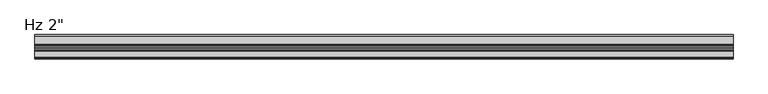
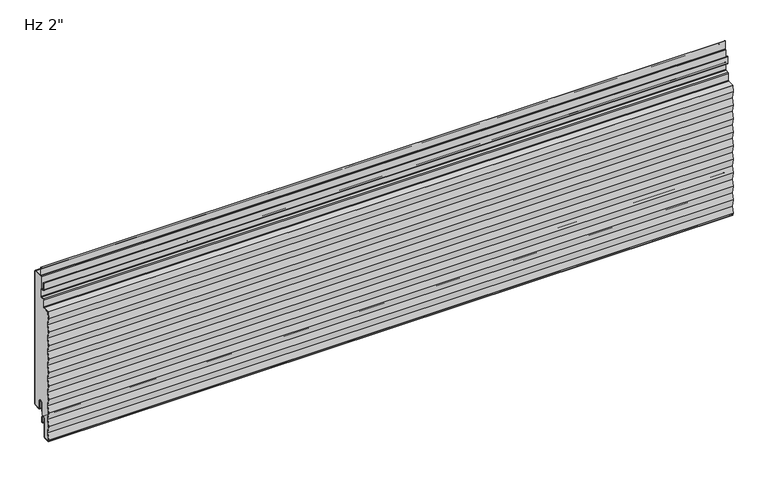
"""IFC4 building model written with IfcOpenShell, lengths in millimetres: plate geometry."""

from ifc_helpers import new_model, si_unit, point, frame, frame_2d, origin, place, context, project, spatial, polyline, circle_curve, ellipse_curve, trimmed, segment, composite_curve, outline, extrude, source, transform, mapped, element, save
from ifc_brep_helpers import plane_surface, cylinder_surface, revolved_surface, extruded_surface, advanced_brep


def plate_29fb56dc(model_context):
    return source(origin(), model_context, "Body", "SolidModel", [
        extrude(outline(composite_curve([segment(polyline([(-22.8125, 259.7620957), (-22.8125, 303.00625), (-2.38125, 303.00625)]), True, "CONTINUOUS"), segment(trimmed(circle_curve(frame_2d((-2.38125, 301.625)), 1.38125), [point((-2.38125, 303.00625))], [point((-1.0, 301.625))], False, "CARTESIAN"), True, "CONTINUOUS"), segment(polyline([(-1.0, 301.625), (-1.0, 3.175)]), True, "CONTINUOUS"), segment(trimmed(circle_curve(frame_2d((-2.38125, 3.175)), 1.38125), [point((-1.0, 3.175))], [point((-2.38125, 1.79375))], False, "CARTESIAN"), True, "CONTINUOUS"), segment(polyline([(-2.38125, 1.79375), (-15.08125, 1.79375)]), True, "CONTINUOUS"), segment(trimmed(circle_curve(frame_2d((-15.08125, 3.175)), 1.38125), [point((-15.08125, 1.79375))], [point((-16.4625, 3.175))], False, "CARTESIAN"), True, "CONTINUOUS"), segment(polyline([(-16.4625, 3.175), (-16.4625, 19.05)]), True, "CONTINUOUS"), segment(trimmed(circle_curve(frame_2d((-21.43125, 19.05)), 4.96875), [point((-16.4625, 19.05))], [point((-26.4, 19.05))], True, "CARTESIAN"), True, "CONTINUOUS"), segment(polyline([(-26.4, 19.05), (-26.4, -6.9375), (-30.95625, -6.9375)]), True, "CONTINUOUS"), segment(trimmed(circle_curve(frame_2d((-30.95625, -11.90625)), 4.96875), [point((-30.95625, -6.9375))], [point((-35.925, -11.90625))], True, "CARTESIAN"), True, "CONTINUOUS"), segment(polyline([(-35.925, -11.90625), (-35.925, -50.0895546)]), True, "CONTINUOUS"), segment(trimmed(circle_curve(frame_2d((-37.30625, -50.0895546)), 1.38125), [point((-35.925, -50.0895546))], [point((-37.233961, -51.4689117))], False, "CARTESIAN"), True, "CONTINUOUS"), segment(polyline([(-37.233961, -51.4689117), (-48.346824, -52.0517378)]), True, "CONTINUOUS"), segment(trimmed(circle_curve(frame_2d((-48.4195367, -50.6716754)), 1.3819766), [point((-48.346824, -52.0517378))], [point((-49.7322508, -51.1036948))], False, "CARTESIAN"), True, "CONTINUOUS"), segment(polyline([(-49.7322508, -51.1036948), (-50.0933847, -48.8511475), (-47.6552034, -33.6111825), (-50.0936034, -18.3711825), (-47.6552034, -3.1311825), (-50.0936034, 12.1088175), (-47.6552034, 27.3488175), (-50.0936034, 42.5888175), (-47.6552034, 57.8288175), (-50.0936034, 73.0688175), (-47.6552034, 88.3088175), (-50.0936034, 103.5488175), (-47.6552034, 118.7888175), (-50.0936034, 134.0288175), (-47.6552034, 149.2688175), (-50.0936034, 164.5088175), (-47.6552034, 179.7488175), (-50.0936034, 194.9888175), (-47.6552034, 210.2288175), (-50.0611926, 225.26625), (-48.01595, 238.0490161), (-34.7895807, 238.7421807)]), True, "CONTINUOUS"), segment(trimmed(circle_curve(frame_2d((-34.925, 241.3261347)), 2.5875), [point((-34.7895807, 238.7421807))], [point((-32.3375, 241.3261347))], True, "CARTESIAN"), True, "CONTINUOUS"), segment(polyline([(-32.3375, 241.3261347), (-32.3375, 255.4967085)]), True, "CONTINUOUS"), segment(trimmed(circle_curve(frame_2d((-30.95625, 255.4967085)), 1.38125), [point((-32.3375, 255.4967085))], [point((-31.028539, 256.8760655))], False, "CARTESIAN"), True, "CONTINUOUS"), segment(polyline([(-31.028539, 256.8760655), (-25.2645807, 257.1781418)]), True, "CONTINUOUS"), segment(trimmed(circle_curve(frame_2d((-25.4, 259.7620957)), 2.5875), [point((-25.2645807, 257.1781418))], [point((-22.8125, 259.7620957))], True, "CARTESIAN"), True, "CONTINUOUS")], self_intersect=False)), frame((-730.0, 0.0, 0.0), z_axis=(1.0, 0.0, 0.0), x_axis=(0.0, 1.0, 0.0)), (0.0, 0.0, 1.0), 1460.0),
        extrude(outline(composite_curve([segment(polyline([(-25.4, 0.79375), (-26.4, 0.79375), (-26.4, 19.05)]), True, "CONTINUOUS"), segment(trimmed(circle_curve(frame_2d((-21.43125, 19.05)), 4.96875), [point((-26.4, 19.05))], [point((-16.4625, 19.05))], False, "CARTESIAN"), True, "CONTINUOUS"), segment(polyline([(-16.4625, 19.05), (-16.4625, 3.175)]), True, "CONTINUOUS"), segment(trimmed(circle_curve(frame_2d((-15.08125, 3.175)), 1.38125), [point((-16.4625, 3.175))], [point((-15.08125, 1.79375))], True, "CARTESIAN"), True, "CONTINUOUS"), segment(polyline([(-15.08125, 1.79375), (-2.38125, 1.79375)]), True, "CONTINUOUS"), segment(trimmed(circle_curve(frame_2d((-2.38125, 3.175)), 1.38125), [point((-2.38125, 1.79375))], [point((-1.0, 3.175))], True, "CARTESIAN"), True, "CONTINUOUS"), segment(polyline([(-1.0, 3.175), (-1.0, 301.625)]), True, "CONTINUOUS"), segment(trimmed(circle_curve(frame_2d((-2.38125, 301.625)), 1.38125), [point((-1.0, 301.625))], [point((-2.38125, 303.00625))], True, "CARTESIAN"), True, "CONTINUOUS"), segment(polyline([(-2.38125, 303.00625), (-19.446875, 303.00625)]), True, "CONTINUOUS"), segment(trimmed(circle_curve(frame_2d((-19.446875, 305.59375)), 2.5875), [point((-19.446875, 303.00625))], [point((-22.034375, 305.59375))], False, "CARTESIAN"), True, "CONTINUOUS"), segment(polyline([(-22.034375, 305.59375), (-22.034375, 323.05625), (-21.034375, 323.05625), (-21.034375, 305.59375)]), True, "CONTINUOUS"), segment(trimmed(circle_curve(frame_2d((-19.446875, 305.59375)), 1.5875), [point((-21.034375, 305.59375))], [point((-19.446875, 304.00625))], True, "CARTESIAN"), True, "CONTINUOUS"), segment(polyline([(-19.446875, 304.00625), (-2.38125, 304.00625)]), True, "CONTINUOUS"), segment(trimmed(circle_curve(frame_2d((-2.38125, 301.625)), 2.38125), [point((-2.38125, 304.00625))], [point((0.0, 301.625))], False, "CARTESIAN"), True, "CONTINUOUS"), segment(polyline([(0.0, 301.625), (0.0, 3.175)]), True, "CONTINUOUS"), segment(trimmed(circle_curve(frame_2d((-2.38125, 3.175)), 2.38125), [point((0.0, 3.175))], [point((-2.38125, 0.79375))], False, "CARTESIAN"), True, "CONTINUOUS"), segment(polyline([(-2.38125, 0.79375), (-15.08125, 0.79375)]), True, "CONTINUOUS"), segment(trimmed(circle_curve(frame_2d((-15.08125, 3.175)), 2.38125), [point((-15.08125, 0.79375))], [point((-17.4625, 3.175))], False, "CARTESIAN"), True, "CONTINUOUS"), segment(polyline([(-17.4625, 3.175), (-17.4625, 19.05)]), True, "CONTINUOUS"), segment(trimmed(circle_curve(frame_2d((-21.43125, 19.05)), 3.96875), [point((-17.4625, 19.05))], [point((-25.4, 19.05))], True, "CARTESIAN"), True, "CONTINUOUS"), segment(polyline([(-25.4, 19.05), (-25.4, 0.79375)]), True, "CONTINUOUS")], self_intersect=False)), frame((-730.0, 0.0, 0.0), z_axis=(1.0, 0.0, 0.0), x_axis=(0.0, 1.0, 0.0)), (0.0, 0.0, 1.0), 1460.0),
        advanced_brep(
        [(-730.0, -25.4, -23.2314549), (-730.0, -26.9875, -23.2314549), (-730.0, -26.9875, -11.9205174), (-730.0, -34.925, -11.9205174), (-730.0, -34.925, -50.1038221), (-730.0, -37.181625, -52.4818086), (-730.0, -50.113818, -53.1595562), (-730.0, -50.8, -48.8709186), (-730.0, -48.3616, -33.6309186), (-730.0, -50.8, -18.3909186), (-730.0, -48.3616, -3.1509186), (-730.0, -50.8, 12.0890814), (-730.0, -48.3616, 27.3290814), (-730.0, -50.8, 42.5690814), (-730.0, -48.3616, 57.8090814), (-730.0, -50.8, 73.0490814), (-730.0, -48.3616, 88.2890814), (-730.0, -50.8, 103.5290814), (-730.0, -48.3616, 118.7690814), (-730.0, -50.8, 134.0090814), (-730.0, -48.3616, 149.2490814), (-730.0, -50.8, 164.4890814), (-730.0, -48.3616, 179.7290814), (-730.0, -50.8, 194.9690814), (-730.0, -48.3616, 210.2090814), (-730.0, -50.7837946, 225.3477976), (-730.0, -48.6289309, 239.0182635), (-730.0, -34.8419167, 239.7408103), (-730.0, -33.3375, 241.3261347), (-730.0, -33.3375, 255.4824411), (-730.0, -31.080875, 257.8604276), (-730.0, -25.3169167, 258.1625039), (-730.0, -23.8125, 259.7478283), (-730.0, -23.8125, 274.6232326), (-730.0, -25.4, 276.2107326), (-730.0, -29.5671875, 276.2107326), (-730.0, -31.9484375, 278.5919826), (-730.0, -31.9484375, 293.0836032), (-730.0, -30.1546875, 293.0836032), (-730.0, -30.1546875, 283.3544826), (-730.0, -30.9484375, 283.3544826), (-730.0, -30.9484375, 278.5919826), (-730.0, -29.5671875, 277.2107326), (-730.0, -25.4, 277.2107326), (-730.0, -22.8125, 274.6232326), (-730.0, -22.8125, 259.7478283), (-730.0, -25.2645807, 257.1638744), (-730.0, -31.028539, 256.8617981), (-730.0, -32.3375, 255.4824411), (-730.0, -32.3375, 241.3261347), (-730.0, -34.7895807, 238.7421807), (-730.0, -47.7692225, 238.0619465), (-730.0, -49.7872809, 225.4490814), (-730.0, -47.3488809, 210.2090814), (-730.0, -49.7872809, 194.9690814), (-730.0, -47.3488809, 179.7290814), (-730.0, -49.7872809, 164.4890814), (-730.0, -47.3488809, 149.2490814), (-730.0, -49.7872809, 134.0090814), (-730.0, -47.3488809, 118.7690814), (-730.0, -49.7872809, 103.5290814), (-730.0, -47.3488809, 88.2890814), (-730.0, -49.7872809, 73.0490814), (-730.0, -47.3488809, 57.8090814), (-730.0, -49.7872809, 42.5690814), (-730.0, -47.3488809, 27.3290814), (-730.0, -49.7872809, 12.0890814), (-730.0, -47.3488809, -3.1509186), (-730.0, -49.7872809, -18.3909186), (-730.0, -47.3488809, -33.6309186), (-730.0, -49.7872809, -48.8709186), (-730.0, -49.2684074, -52.1138777), (-730.0, -37.233961, -51.4831791), (-730.0, -35.925, -50.1038221), (-730.0, -35.925, -11.9205174), (-730.0, -25.9875, -11.9205174), (-730.0, -26.19375, -13.5080174), (-730.0, -25.4, -13.5080174), (730.0, -25.4, -23.2314549), (730.0, -25.4, -13.5080174), (730.0, -26.19375, -13.5080174), (730.0, -25.9875, -11.9205174), (730.0, -35.925, -11.9205174), (730.0, -35.925, -50.1038221), (730.0, -37.233961, -51.4831791), (730.0, -49.2684074, -52.1138777), (730.0, -49.7872809, -48.8709186), (730.0, -47.3488809, -33.6309186), (730.0, -49.7872809, -18.3909186), (730.0, -47.3488809, -3.1509186), (730.0, -49.7872809, 12.0890814), (730.0, -47.3488809, 27.3290814), (730.0, -49.7872809, 42.5690814), (730.0, -47.3488809, 57.8090814), (730.0, -49.7872809, 73.0490814), (730.0, -47.3488809, 88.2890814), (730.0, -49.7872809, 103.5290814), (730.0, -47.3488809, 118.7690814), (730.0, -49.7872809, 134.0090814), (730.0, -47.3488809, 149.2490814), (730.0, -49.7872809, 164.4890814), (730.0, -47.3488809, 179.7290814), (730.0, -49.7872809, 194.9690814), (730.0, -47.3488809, 210.2090814), (730.0, -49.7710755, 225.3477976), (730.0, -47.7692225, 238.0619465), (730.0, -34.7895807, 238.7421807), (730.0, -32.3375, 241.3261347), (730.0, -32.3375, 255.4824411), (730.0, -31.028539, 256.8617981), (730.0, -25.2645807, 257.1638744), (730.0, -22.8125, 259.7478283), (730.0, -22.8125, 274.6232326), (730.0, -25.4, 277.2107326), (730.0, -29.5671875, 277.2107326), (730.0, -30.9484375, 278.5919826), (730.0, -30.9484375, 283.3544826), (730.0, -30.1546875, 283.3544826), (730.0, -30.1546875, 293.0836032), (730.0, -31.9484375, 293.0836032), (730.0, -31.9484375, 278.5919826), (730.0, -29.5671875, 276.2107326), (730.0, -25.4, 276.2107326), (730.0, -23.8125, 274.6232326), (730.0, -23.8125, 259.7478283), (730.0, -25.3169167, 258.1625039), (730.0, -31.080875, 257.8604276), (730.0, -33.3375, 255.4824411), (730.0, -33.3375, 241.3261347), (730.0, -34.8419167, 239.7408103), (730.0, -48.6289309, 239.0182635), (730.0, -50.8, 225.4490814), (730.0, -48.3616, 210.2090814), (730.0, -50.8, 194.9690814), (730.0, -48.3616, 179.7290814), (730.0, -50.8, 164.4890814), (730.0, -48.3616, 149.2490814), (730.0, -50.8, 134.0090814), (730.0, -48.3616, 118.7690814), (730.0, -50.8, 103.5290814), (730.0, -48.3616, 88.2890814), (730.0, -50.8, 73.0490814), (730.0, -48.3616, 57.8090814), (730.0, -50.8, 42.5690814), (730.0, -48.3616, 27.3290814), (730.0, -50.8, 12.0890814), (730.0, -48.3616, -3.1509186), (730.0, -50.8, -18.3909186), (730.0, -48.3616, -33.6309186), (730.0, -50.8, -48.8709186), (730.0, -50.113818, -53.1595562), (730.0, -37.181625, -52.4818086), (730.0, -34.925, -50.1038221), (730.0, -34.925, -11.9205174), (730.0, -26.9875, -11.9205174), (730.0, -26.9875, -23.2314549)],
        [
            (0, 1, circle_curve(frame((-730.0, -26.19375, -23.2314549), z_axis=(-1.0, 0.0, 0.0), x_axis=(0.0, 0.0, 1.0)), 0.79375)),
            (1, 2),
            (2, 3, circle_curve(frame((-730.0, -30.95625, -11.9205174), z_axis=(1.0, 0.0, 0.0), x_axis=(0.0, 0.0, 1.0)), 3.96875)),
            (3, 4),
            (4, 5, circle_curve(frame((-730.0, -37.30625, -50.1038221), z_axis=(-1.0, 0.0, 0.0), x_axis=(0.0, 0.0, 1.0)), 2.38125)),
            (5, 6),
            (6, 7),
            (7, 8),
            (8, 9),
            (9, 10),
            (10, 11),
            (11, 12),
            (12, 13),
            (13, 14),
            (14, 15),
            (15, 16),
            (16, 17),
            (17, 18),
            (18, 19),
            (19, 20),
            (20, 21),
            (21, 22),
            (22, 23),
            (23, 24),
            (24, 25),
            (25, 26),
            (26, 27),
            (27, 28, circle_curve(frame((-730.0, -34.925, 241.3261347), z_axis=(1.0, 0.0, 0.0), x_axis=(0.0, 0.0, 1.0)), 1.5875)),
            (28, 29),
            (29, 30, circle_curve(frame((-730.0, -30.95625, 255.4824411), z_axis=(-1.0, 0.0, 0.0), x_axis=(0.0, 0.0, 1.0)), 2.38125)),
            (30, 31),
            (31, 32, circle_curve(frame((-730.0, -25.4, 259.7478283), z_axis=(1.0, 0.0, 0.0), x_axis=(0.0, 0.0, 1.0)), 1.5875)),
            (32, 33),
            (33, 34, circle_curve(frame((-730.0, -25.4, 274.6232326), z_axis=(1.0, 0.0, 0.0), x_axis=(0.0, 0.0, 1.0)), 1.5875)),
            (34, 35),
            (35, 36, circle_curve(frame((-730.0, -29.5671875, 278.5919826), z_axis=(-1.0, 0.0, 0.0), x_axis=(0.0, 0.0, 1.0)), 2.38125)),
            (36, 37),
            (37, 38, ellipse_curve(frame((-730.0, -31.0515625, 293.0836032), z_axis=(-1.0, 0.0, 0.0), x_axis=(0.0, 1.0, 0.0)), 0.896875, 0.7852275)),
            (38, 39),
            (39, 40),
            (40, 41),
            (41, 42, circle_curve(frame((-730.0, -29.5671875, 278.5919826), z_axis=(1.0, 0.0, 0.0), x_axis=(0.0, 0.0, 1.0)), 1.38125)),
            (42, 43),
            (43, 44, circle_curve(frame((-730.0, -25.4, 274.6232326), z_axis=(-1.0, 0.0, 0.0), x_axis=(0.0, 0.0, 1.0)), 2.5875)),
            (44, 45),
            (45, 46, circle_curve(frame((-730.0, -25.4, 259.7478283), z_axis=(-1.0, 0.0, 0.0), x_axis=(0.0, 0.0, 1.0)), 2.5875)),
            (46, 47),
            (47, 48, circle_curve(frame((-730.0, -30.95625, 255.4824411), z_axis=(1.0, 0.0, 0.0), x_axis=(0.0, 0.0, 1.0)), 1.38125)),
            (48, 49),
            (49, 50, circle_curve(frame((-730.0, -34.925, 241.3261347), z_axis=(-1.0, 0.0, 0.0), x_axis=(0.0, 0.0, 1.0)), 2.5875)),
            (50, 51),
            (51, 52),
            (52, 53),
            (53, 54),
            (54, 55),
            (55, 56),
            (56, 57),
            (57, 58),
            (58, 59),
            (59, 60),
            (60, 61),
            (61, 62),
            (62, 63),
            (63, 64),
            (64, 65),
            (65, 66),
            (66, 67),
            (67, 68),
            (68, 69),
            (69, 70),
            (70, 71),
            (71, 72),
            (72, 73, circle_curve(frame((-730.0, -37.30625, -50.1038221), z_axis=(1.0, 0.0, 0.0), x_axis=(0.0, 0.0, 1.0)), 1.38125)),
            (73, 74),
            (74, 75, circle_curve(frame((-730.0, -30.95625, -11.9205174), z_axis=(-1.0, 0.0, 0.0), x_axis=(0.0, 0.0, 1.0)), 4.96875)),
            (75, 76),
            (76, 77),
            (77, 0),
            (78, 79),
            (79, 80),
            (80, 81),
            (81, 82, circle_curve(frame((730.0, -30.95625, -11.9205174), z_axis=(1.0, 0.0, 0.0), x_axis=(0.0, 0.0, 1.0)), 4.96875)),
            (82, 83),
            (83, 84, circle_curve(frame((730.0, -37.30625, -50.1038221), z_axis=(-1.0, 0.0, 0.0), x_axis=(0.0, 0.0, 1.0)), 1.38125)),
            (84, 85),
            (85, 86),
            (86, 87),
            (87, 88),
            (88, 89),
            (89, 90),
            (90, 91),
            (91, 92),
            (92, 93),
            (93, 94),
            (94, 95),
            (95, 96),
            (96, 97),
            (97, 98),
            (98, 99),
            (99, 100),
            (100, 101),
            (101, 102),
            (102, 103),
            (103, 104),
            (104, 105),
            (105, 106),
            (106, 107, circle_curve(frame((730.0, -34.925, 241.3261347), z_axis=(1.0, 0.0, 0.0), x_axis=(0.0, 0.0, 1.0)), 2.5875)),
            (107, 108),
            (108, 109, circle_curve(frame((730.0, -30.95625, 255.4824411), z_axis=(-1.0, 0.0, 0.0), x_axis=(0.0, 0.0, 1.0)), 1.38125)),
            (109, 110),
            (110, 111, circle_curve(frame((730.0, -25.4, 259.7478283), z_axis=(1.0, 0.0, 0.0), x_axis=(0.0, 0.0, 1.0)), 2.5875)),
            (111, 112),
            (112, 113, circle_curve(frame((730.0, -25.4, 274.6232326), z_axis=(1.0, 0.0, 0.0), x_axis=(0.0, 0.0, 1.0)), 2.5875)),
            (113, 114),
            (114, 115, circle_curve(frame((730.0, -29.5671875, 278.5919826), z_axis=(-1.0, 0.0, 0.0), x_axis=(0.0, 0.0, 1.0)), 1.38125)),
            (115, 116),
            (116, 117),
            (117, 118),
            (118, 119, ellipse_curve(frame((730.0, -31.0515625, 293.0836032), z_axis=(1.0, 0.0, 0.0), x_axis=(0.0, 1.0, 0.0)), 0.896875, 0.7852275)),
            (119, 120),
            (120, 121, circle_curve(frame((730.0, -29.5671875, 278.5919826), z_axis=(1.0, 0.0, 0.0), x_axis=(0.0, 0.0, 1.0)), 2.38125)),
            (121, 122),
            (122, 123, circle_curve(frame((730.0, -25.4, 274.6232326), z_axis=(-1.0, 0.0, 0.0), x_axis=(0.0, 0.0, 1.0)), 1.5875)),
            (123, 124),
            (124, 125, circle_curve(frame((730.0, -25.4, 259.7478283), z_axis=(-1.0, 0.0, 0.0), x_axis=(0.0, 0.0, 1.0)), 1.5875)),
            (125, 126),
            (126, 127, circle_curve(frame((730.0, -30.95625, 255.4824411), z_axis=(1.0, 0.0, 0.0), x_axis=(0.0, 0.0, 1.0)), 2.38125)),
            (127, 128),
            (128, 129, circle_curve(frame((730.0, -34.925, 241.3261347), z_axis=(-1.0, 0.0, 0.0), x_axis=(0.0, 0.0, 1.0)), 1.5875)),
            (129, 130),
            (130, 131),
            (131, 132),
            (132, 133),
            (133, 134),
            (134, 135),
            (135, 136),
            (136, 137),
            (137, 138),
            (138, 139),
            (139, 140),
            (140, 141),
            (141, 142),
            (142, 143),
            (143, 144),
            (144, 145),
            (145, 146),
            (146, 147),
            (147, 148),
            (148, 149),
            (149, 150),
            (150, 151),
            (151, 152, circle_curve(frame((730.0, -37.30625, -50.1038221), z_axis=(1.0, 0.0, 0.0), x_axis=(0.0, 0.0, 1.0)), 2.38125)),
            (152, 153),
            (153, 154, circle_curve(frame((730.0, -30.95625, -11.9205174), z_axis=(-1.0, 0.0, 0.0), x_axis=(0.0, 0.0, 1.0)), 3.96875)),
            (154, 155),
            (155, 78, circle_curve(frame((730.0, -26.19375, -23.2314549), z_axis=(1.0, 0.0, 0.0), x_axis=(0.0, 0.0, 1.0)), 0.79375)),
            (56, 100),
            (99, 57),
            (98, 58),
            (97, 59),
            (71, 85),
            (84, 72),
            (83, 73),
            (82, 74),
            (81, 75),
            (76, 80),
            (79, 77),
            (39, 117),
            (116, 40),
            (38, 118),
            (37, 119),
            (26, 130),
            (129, 27),
            (50, 106),
            (105, 51),
            (24, 132),
            (131, 25),
            (52, 104),
            (103, 53),
            (102, 54),
            (101, 55),
            (21, 135),
            (134, 22),
            (133, 23),
            (20, 136),
            (18, 138),
            (137, 19),
            (16, 140),
            (139, 17),
            (14, 142),
            (141, 15),
            (12, 144),
            (143, 13),
            (10, 146),
            (145, 11),
            (8, 148),
            (147, 9),
            (6, 150),
            (149, 7),
            (69, 87),
            (86, 70),
            (67, 89),
            (88, 68),
            (65, 91),
            (90, 66),
            (63, 93),
            (92, 64),
            (61, 95),
            (94, 62),
            (96, 60),
            (49, 107),
            (47, 109),
            (108, 48),
            (45, 111),
            (110, 46),
            (41, 115),
            (114, 42),
            (43, 113),
            (112, 44),
            (36, 120),
            (34, 122),
            (121, 35),
            (32, 124),
            (123, 33),
            (30, 126),
            (125, 31),
            (28, 128),
            (127, 29),
            (5, 151),
            (3, 153),
            (152, 4),
            (1, 155),
            (154, 2),
            (78, 0),
        ],
        [
            plane_surface(frame((-730.0, -50.8, 152.4), z_axis=(-1.0, 0.0, 0.0), x_axis=(0.0, -1.0, 0.0))),
            plane_surface(frame((730.0, -50.8, 152.4), z_axis=(1.0, 0.0, 0.0), x_axis=(0.0, -1.0, 0.0))),
            plane_surface(frame((-730.0, -47.3488809, 149.2490814), z_axis=(0.0, 0.9874406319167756, 0.15799050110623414), x_axis=(1.0, 0.0, 0.0))),
            plane_surface(frame((-730.0, -49.7872809, 134.0090814), z_axis=(0.0, 0.987440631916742, -0.15799050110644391), x_axis=(1.0, 0.0, 0.0))),
            plane_surface(frame((-730.0, -47.3488809, 118.7690814), z_axis=(0.0, 0.987440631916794, 0.1579905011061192), x_axis=(1.0, 0.0, 0.0))),
            plane_surface(frame((-730.0, -37.233961, -51.4831791), z_axis=(0.0, -0.052335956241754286, 0.9986295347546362), x_axis=(1.0, 0.0, 0.0))),
            revolved_surface(polyline([(730.0, -37.30625, -48.7225721), (-730.0, -37.30625, -48.7225721)]), (-730.0, -37.30625, -50.1038221), (1.0, 0.0, 0.0)),
            plane_surface(frame((-730.0, -35.925, -11.9205174), z_axis=(0.0, -1.0, 0.0), x_axis=(1.0, 0.0, 0.0))),
            cylinder_surface(frame((-730.0, -30.95625, -11.9205174), z_axis=(-1.0, 0.0, 0.0), x_axis=(0.0, 0.0, 1.0)), 4.96875),
            plane_surface(frame((-730.0, -25.4, -13.5080174), z_axis=(0.0, 0.0, 1.0), x_axis=(1.0, 0.0, 0.0))),
            plane_surface(frame((-730.0, -26.19375, -13.5080174), z_axis=(0.0, 0.9916655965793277, -0.12883844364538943), x_axis=(1.0, 0.0, 0.0))),
            plane_surface(frame((-730.0, -30.9484375, 283.3544826), z_axis=(0.0, 0.0, -1.0), x_axis=(1.0, 0.0, 0.0))),
            plane_surface(frame((-730.0, -30.1546875, 283.3544826), z_axis=(0.0, 1.0, 0.0), x_axis=(1.0, 0.0, 0.0))),
            extruded_surface(trimmed(ellipse_curve(frame((-730.0, -31.0515625, 293.0836032), z_axis=(1.0, 0.0, 0.0), x_axis=(0.0, 1.0, 0.0)), 0.896875, 0.7852275), [point((-730.0, -30.1546875, 293.0836032))], [point((-730.0, -31.9484375, 293.0836032))], True, "CARTESIAN"), (1460.0, 0.0, 0.0), 1460.0),
            plane_surface(frame((-730.0, -34.8419167, 239.7408103), z_axis=(0.0, -0.052335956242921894, 0.998629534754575), x_axis=(1.0, 0.0, 0.0))),
            plane_surface(frame((-730.0, -47.7692225, 238.0619465), z_axis=(0.0, 0.05233595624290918, -0.9986295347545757), x_axis=(1.0, 0.0, 0.0))),
            plane_surface(frame((-730.0, -50.7837946, 225.3477976), z_axis=(0.0, -0.9874406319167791, -0.15799050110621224), x_axis=(1.0, 0.0, 0.0))),
            plane_surface(frame((-730.0, -47.3488809, 210.2090814), z_axis=(0.0, 0.9874406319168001, 0.15799050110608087), x_axis=(1.0, 0.0, 0.0))),
            plane_surface(frame((-730.0, -49.7872809, 194.9690814), z_axis=(0.0, 0.9874406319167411, -0.15799050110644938), x_axis=(1.0, 0.0, 0.0))),
            plane_surface(frame((-730.0, -47.3488809, 179.7290814), z_axis=(0.0, 0.987440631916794, 0.1579905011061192), x_axis=(1.0, 0.0, 0.0))),
            plane_surface(frame((-730.0, -49.7872809, 164.4890814), z_axis=(0.0, 0.987440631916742, -0.15799050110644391), x_axis=(1.0, 0.0, 0.0))),
            plane_surface(frame((-730.0, -48.3616, 179.7290814), z_axis=(0.0, -0.9874406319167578, 0.15799050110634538), x_axis=(1.0, 0.0, 0.0))),
            plane_surface(frame((-730.0, -50.8, 194.9690814), z_axis=(0.0, -0.9874406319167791, -0.15799050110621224), x_axis=(1.0, 0.0, 0.0))),
            plane_surface(frame((-730.0, -48.3616, 210.2090814), z_axis=(0.0, -0.9874406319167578, 0.15799050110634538), x_axis=(1.0, 0.0, 0.0))),
            plane_surface(frame((-730.0, -49.7872809, 225.4490814), z_axis=(0.0, 0.9874406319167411, -0.15799050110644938), x_axis=(1.0, 0.0, 0.0))),
            plane_surface(frame((-730.0, -48.6289309, 239.0182635), z_axis=(0.0, -0.9874406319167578, 0.15799050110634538), x_axis=(1.0, 0.0, 0.0))),
            plane_surface(frame((-730.0, -50.8, 164.4890814), z_axis=(0.0, -0.9874406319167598, -0.15799050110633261), x_axis=(1.0, 0.0, 0.0))),
            plane_surface(frame((-730.0, -50.8, 134.0090814), z_axis=(0.0, -0.9874406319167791, -0.15799050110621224), x_axis=(1.0, 0.0, 0.0))),
            plane_surface(frame((-730.0, -48.3616, 149.2490814), z_axis=(0.0, -0.9874406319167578, 0.15799050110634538), x_axis=(1.0, 0.0, 0.0))),
            plane_surface(frame((-730.0, -50.8, 103.5290814), z_axis=(0.0, -0.9874406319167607, -0.15799050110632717), x_axis=(1.0, 0.0, 0.0))),
            plane_surface(frame((-730.0, -50.8, 73.0490814), z_axis=(0.0, -0.9874406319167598, -0.15799050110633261), x_axis=(1.0, 0.0, 0.0))),
            plane_surface(frame((-730.0, -48.3616, 88.2890814), z_axis=(0.0, -0.9874406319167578, 0.15799050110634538), x_axis=(1.0, 0.0, 0.0))),
            plane_surface(frame((-730.0, -48.3616, 118.7690814), z_axis=(0.0, -0.9874406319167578, 0.15799050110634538), x_axis=(1.0, 0.0, 0.0))),
            plane_surface(frame((-730.0, -50.8, 42.5690814), z_axis=(0.0, -0.9874406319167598, -0.15799050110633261), x_axis=(1.0, 0.0, 0.0))),
            plane_surface(frame((-730.0, -50.8, 12.0890814), z_axis=(0.0, -0.9874406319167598, -0.15799050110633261), x_axis=(1.0, 0.0, 0.0))),
            plane_surface(frame((-730.0, -48.3616, 27.3290814), z_axis=(0.0, -0.9874406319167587, 0.15799050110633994), x_axis=(1.0, 0.0, 0.0))),
            plane_surface(frame((-730.0, -48.3616, 57.8090814), z_axis=(0.0, -0.9874406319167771, 0.157990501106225), x_axis=(1.0, 0.0, 0.0))),
            plane_surface(frame((-730.0, -50.8, -18.3909186), z_axis=(0.0, -0.9874406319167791, -0.15799050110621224), x_axis=(1.0, 0.0, 0.0))),
            plane_surface(frame((-730.0, -50.8, -48.8709186), z_axis=(0.0, -0.9874406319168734, -0.15799050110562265), x_axis=(1.0, 0.0, 0.0))),
            plane_surface(frame((-730.0, -48.3616, -33.6309186), z_axis=(0.0, -0.9874406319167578, 0.15799050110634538), x_axis=(1.0, 0.0, 0.0))),
            plane_surface(frame((-730.0, -48.3616, -3.1509186), z_axis=(0.0, -0.9874406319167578, 0.15799050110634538), x_axis=(1.0, 0.0, 0.0))),
            plane_surface(frame((-730.0, -49.7872809, -48.8709186), z_axis=(0.0, 0.9874406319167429, -0.15799050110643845), x_axis=(1.0, 0.0, 0.0))),
            plane_surface(frame((-730.0, -49.7872809, -18.3909186), z_axis=(0.0, 0.987440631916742, -0.15799050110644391), x_axis=(1.0, 0.0, 0.0))),
            plane_surface(frame((-730.0, -47.3488809, -33.6309186), z_axis=(0.0, 0.987440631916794, 0.1579905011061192), x_axis=(1.0, 0.0, 0.0))),
            plane_surface(frame((-730.0, -49.2684074, -52.1138777), z_axis=(0.0, 0.987440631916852, 0.1579905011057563), x_axis=(1.0, 0.0, 0.0))),
            plane_surface(frame((-730.0, -49.7872809, 12.0890814), z_axis=(0.0, 0.987440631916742, -0.15799050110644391), x_axis=(1.0, 0.0, 0.0))),
            plane_surface(frame((-730.0, -49.7872809, 42.5690814), z_axis=(0.0, 0.9874406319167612, -0.1579905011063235), x_axis=(1.0, 0.0, 0.0))),
            plane_surface(frame((-730.0, -47.3488809, 27.3290814), z_axis=(0.0, 0.9874406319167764, 0.15799050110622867), x_axis=(1.0, 0.0, 0.0))),
            plane_surface(frame((-730.0, -47.3488809, -3.1509186), z_axis=(0.0, 0.9874406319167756, 0.15799050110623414), x_axis=(1.0, 0.0, 0.0))),
            plane_surface(frame((-730.0, -49.7872809, 73.0490814), z_axis=(0.0, 0.9874406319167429, -0.15799050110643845), x_axis=(1.0, 0.0, 0.0))),
            plane_surface(frame((-730.0, -49.7872809, 103.5290814), z_axis=(0.0, 0.987440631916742, -0.15799050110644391), x_axis=(1.0, 0.0, 0.0))),
            plane_surface(frame((-730.0, -47.3488809, 88.2890814), z_axis=(0.0, 0.9874406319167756, 0.15799050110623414), x_axis=(1.0, 0.0, 0.0))),
            plane_surface(frame((-730.0, -47.3488809, 57.8090814), z_axis=(0.0, 0.9874406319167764, 0.15799050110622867), x_axis=(1.0, 0.0, 0.0))),
            cylinder_surface(frame((-730.0, -34.925, 241.3261347), z_axis=(-1.0, 0.0, 0.0), x_axis=(0.0, 0.0, 1.0)), 2.5875),
            revolved_surface(polyline([(730.0, -30.95625, 256.8636911), (-730.0, -30.95625, 256.8636911)]), (-730.0, -30.95625, 255.4824411), (1.0, 0.0, 0.0)),
            cylinder_surface(frame((-730.0, -25.4, 259.7478283), z_axis=(-1.0, 0.0, 0.0), x_axis=(0.0, 0.0, 1.0)), 2.5875),
            plane_surface(frame((-730.0, -31.028539, 256.8617981), z_axis=(0.0, 0.0523359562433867, -0.9986295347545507), x_axis=(1.0, 0.0, 0.0))),
            plane_surface(frame((-730.0, -32.3375, 241.3261347), z_axis=(0.0, 1.0, 0.0), x_axis=(1.0, 0.0, 0.0))),
            revolved_surface(polyline([(730.0, -29.5671875, 279.9732326), (-730.0, -29.5671875, 279.9732326)]), (-730.0, -29.5671875, 278.5919826), (1.0, 0.0, 0.0)),
            cylinder_surface(frame((-730.0, -25.4, 274.6232326), z_axis=(-1.0, 0.0, 0.0), x_axis=(0.0, 0.0, 1.0)), 2.5875),
            plane_surface(frame((-730.0, -25.4, 277.2107326), z_axis=(0.0, 0.0, 1.0), x_axis=(1.0, 0.0, 0.0))),
            plane_surface(frame((-730.0, -30.9484375, 278.5919826), z_axis=(0.0, 1.0, 0.0), x_axis=(1.0, 0.0, 0.0))),
            plane_surface(frame((-730.0, -31.9484375, 293.0836032), z_axis=(0.0, -1.0, 0.0), x_axis=(1.0, 0.0, 0.0))),
            plane_surface(frame((-730.0, -29.5671875, 276.2107326), z_axis=(0.0, 0.0, -1.0), x_axis=(1.0, 0.0, 0.0))),
            cylinder_surface(frame((-730.0, -29.5671875, 278.5919826), z_axis=(-1.0, 0.0, 0.0), x_axis=(0.0, 0.0, 1.0)), 2.38125),
            plane_surface(frame((-730.0, -22.8125, 259.7478283), z_axis=(0.0, 1.0, 0.0), x_axis=(1.0, 0.0, 0.0))),
            plane_surface(frame((-730.0, -23.8125, 274.6232326), z_axis=(0.0, -1.0, 0.0), x_axis=(1.0, 0.0, 0.0))),
            plane_surface(frame((-730.0, -25.3169167, 258.1625039), z_axis=(0.0, -0.052335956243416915, 0.9986295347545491), x_axis=(1.0, 0.0, 0.0))),
            revolved_surface(polyline([(730.0, -25.4, 261.33532829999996), (-730.0, -25.4, 261.33532829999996)]), (-730.0, -25.4, 259.7478283), (1.0, 0.0, 0.0)),
            revolved_surface(polyline([(730.0, -25.4, 276.2107326), (-730.0, -25.4, 276.2107326)]), (-730.0, -25.4, 274.6232326), (1.0, 0.0, 0.0)),
            plane_surface(frame((-730.0, -33.3375, 255.4824411), z_axis=(0.0, -1.0, 0.0), x_axis=(1.0, 0.0, 0.0))),
            revolved_surface(polyline([(730.0, -34.925, 242.91363470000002), (-730.0, -34.925, 242.91363470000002)]), (-730.0, -34.925, 241.3261347), (1.0, 0.0, 0.0)),
            cylinder_surface(frame((-730.0, -30.95625, 255.4824411), z_axis=(-1.0, 0.0, 0.0), x_axis=(0.0, 0.0, 1.0)), 2.38125),
            plane_surface(frame((-730.0, -50.113818, -53.1595562), z_axis=(0.0, 0.052335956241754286, -0.9986295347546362), x_axis=(1.0, 0.0, 0.0))),
            plane_surface(frame((-730.0, -34.925, -50.1038221), z_axis=(0.0, 1.0, 0.0), x_axis=(1.0, 0.0, 0.0))),
            plane_surface(frame((-730.0, -26.9875, -11.9205174), z_axis=(0.0, -1.0, 0.0), x_axis=(1.0, 0.0, 0.0))),
            revolved_surface(polyline([(730.0, -30.95625, -7.9517674), (-730.0, -30.95625, -7.9517674)]), (-730.0, -30.95625, -11.9205174), (1.0, 0.0, 0.0)),
            cylinder_surface(frame((-730.0, -37.30625, -50.1038221), z_axis=(-1.0, 0.0, 0.0), x_axis=(0.0, 0.0, 1.0)), 2.38125),
            plane_surface(frame((-730.0, -25.4, -23.2314549), z_axis=(0.0, 1.0, 0.0), x_axis=(1.0, 0.0, 0.0))),
            cylinder_surface(frame((-730.0, -26.19375, -23.2314549), z_axis=(-1.0, 0.0, 0.0), x_axis=(0.0, 0.0, 1.0)), 0.79375),
        ],
        [
            (0, [[1, 2, 3, 4, 5, 6, 7, 8, 9, 10, 11, 12, 13, 14, 15, 16, 17, 18, 19, 20, 21, 22, 23, 24, 25, 26, 27, 28, 29, 30, 31, 32, 33, 34, 35, 36, 37, 38, 39, 40, 41, 42, 43, 44, 45, 46, 47, 48, 49, 50, 51, 52, 53, 54, 55, 56, 57, 58, 59, 60, 61, 62, 63, 64, 65, 66, 67, 68, 69, 70, 71, 72, 73, 74, 75, 76, 77, 78]]),
            (1, [[79, 80, 81, 82, 83, 84, 85, 86, 87, 88, 89, 90, 91, 92, 93, 94, 95, 96, 97, 98, 99, 100, 101, 102, 103, 104, 105, 106, 107, 108, 109, 110, 111, 112, 113, 114, 115, 116, 117, 118, 119, 120, 121, 122, 123, 124, 125, 126, 127, 128, 129, 130, 131, 132, 133, 134, 135, 136, 137, 138, 139, 140, 141, 142, 143, 144, 145, 146, 147, 148, 149, 150, 151, 152, 153, 154, 155, 156]]),
            (2, [[157, -100, 158, -57]]),
            (3, [[-158, -99, 159, -58]]),
            (4, [[-159, -98, 160, -59]]),
            (5, [[161, -85, 162, -72]]),
            (6, [[-162, -84, 163, -73]]),
            (7, [[-163, -83, 164, -74]]),
            (8, [[-164, -82, 165, -75]]),
            (9, [[166, -80, 167, -77]]),
            (10, [[-165, -81, -166, -76]]),
            (11, [[168, -117, 169, -40]]),
            (12, [[170, -118, -168, -39]]),
            (13, [[171, -119, -170, -38]]),
            (14, [[172, -130, 173, -27]]),
            (15, [[174, -106, 175, -51]]),
            (16, [[176, -132, 177, -25]]),
            (17, [[178, -104, 179, -53]]),
            (18, [[-179, -103, 180, -54]]),
            (19, [[-180, -102, 181, -55]]),
            (20, [[-181, -101, -157, -56]]),
            (21, [[182, -135, 183, -22]]),
            (22, [[-183, -134, 184, -23]]),
            (23, [[-184, -133, -176, -24]]),
            (24, [[-175, -105, -178, -52]]),
            (25, [[-177, -131, -172, -26]]),
            (26, [[185, -136, -182, -21]]),
            (27, [[186, -138, 187, -19]]),
            (28, [[-187, -137, -185, -20]]),
            (29, [[188, -140, 189, -17]]),
            (30, [[190, -142, 191, -15]]),
            (31, [[-191, -141, -188, -16]]),
            (32, [[-189, -139, -186, -18]]),
            (33, [[192, -144, 193, -13]]),
            (34, [[194, -146, 195, -11]]),
            (35, [[-195, -145, -192, -12]]),
            (36, [[-193, -143, -190, -14]]),
            (37, [[196, -148, 197, -9]]),
            (38, [[198, -150, 199, -7]]),
            (39, [[-199, -149, -196, -8]]),
            (40, [[-197, -147, -194, -10]]),
            (41, [[200, -87, 201, -70]]),
            (42, [[202, -89, 203, -68]]),
            (43, [[-203, -88, -200, -69]]),
            (44, [[-201, -86, -161, -71]]),
            (45, [[204, -91, 205, -66]]),
            (46, [[206, -93, 207, -64]]),
            (47, [[-207, -92, -204, -65]]),
            (48, [[-205, -90, -202, -67]]),
            (49, [[208, -95, 209, -62]]),
            (50, [[-160, -97, 210, -60]]),
            (51, [[-210, -96, -208, -61]]),
            (52, [[-209, -94, -206, -63]]),
            (53, [[211, -107, -174, -50]]),
            (54, [[212, -109, 213, -48]]),
            (55, [[214, -111, 215, -46]]),
            (56, [[-215, -110, -212, -47]]),
            (57, [[-213, -108, -211, -49]]),
            (58, [[216, -115, 217, -42]]),
            (59, [[218, -113, 219, -44]]),
            (60, [[-217, -114, -218, -43]]),
            (61, [[-169, -116, -216, -41]]),
            (62, [[220, -120, -171, -37]]),
            (63, [[221, -122, 222, -35]]),
            (64, [[-222, -121, -220, -36]]),
            (65, [[-219, -112, -214, -45]]),
            (66, [[223, -124, 224, -33]]),
            (67, [[225, -126, 226, -31]]),
            (68, [[-226, -125, -223, -32]]),
            (69, [[-224, -123, -221, -34]]),
            (70, [[227, -128, 228, -29]]),
            (71, [[-173, -129, -227, -28]]),
            (72, [[-228, -127, -225, -30]]),
            (73, [[229, -151, -198, -6]]),
            (74, [[230, -153, 231, -4]]),
            (75, [[232, -155, 233, -2]]),
            (76, [[-233, -154, -230, -3]]),
            (77, [[-231, -152, -229, -5]]),
            (78, [[-167, -79, 234, -78]]),
            (79, [[-234, -156, -232, -1]]),
        ],
    ),
    ])


if __name__ == "__main__":
    model = new_model("IFC4")
    model_context = context("Model", 3, world=origin())
    ifc_project = project(units=[si_unit("LENGTHUNIT", "METRE", prefix="MILLI")], contexts=[model_context])
    site = spatial("IfcSite", under=ifc_project)
    building = spatial("IfcBuilding", under=site)
    placement = place(None, origin())
    plate_shape = plate_29fb56dc(model_context)
    element("IfcPlate", 1, ObjectType="KIP-12-DWHR-R19-CP-Hz-S : Hz 2\"", at=placement, inside=building, context=model_context, shape_type="MappedRepresentation", body=[
        mapped(plate_shape, transform((0.0, 0.0, 0.0), x_axis=(1.0, 0.0, 0.0), y_axis=(0.0, 1.0, 0.0), z_axis=(0.0, 0.0, 1.0))),
    ])
    save(model, "model.ifc")
